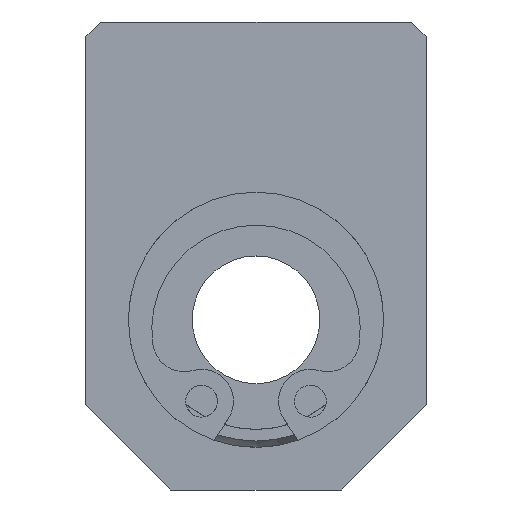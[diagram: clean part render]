
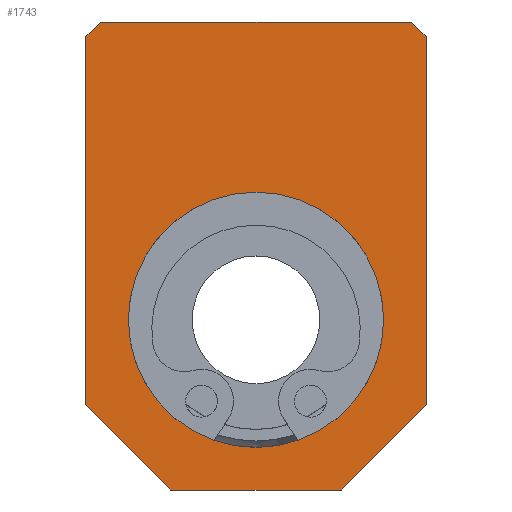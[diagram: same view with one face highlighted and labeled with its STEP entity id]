
A CAD part, left-side view. The second image highlights one B-rep face of the part: STEP entity #1743.
In plain terms, the highlighted planar face has unit normal (-1, 0, 0).
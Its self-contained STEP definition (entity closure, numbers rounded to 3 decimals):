
#1645=CARTESIAN_POINT('',(0.0,-7.3,14.0));
#1646=VERTEX_POINT('',#1645);
#1653=CARTESIAN_POINT('',(0.0,-8.,13.3));
#1654=VERTEX_POINT('',#1653);
#1655=CARTESIAN_POINT('',(0.0,-7.3,14.0));
#1656=DIRECTION('',(0.0,-0.707,-0.707));
#1657=VECTOR('',#1656,0.99);
#1658=LINE('',#1655,#1657);
#1659=EDGE_CURVE('',#1646,#1654,#1658,.T.);
#1670=CARTESIAN_POINT('',(0.0,0.,3.));
#1671=DIRECTION('',(1.0,0.0,0.0));
#1672=DIRECTION('',(0.0,0.0,-1.0));
#1673=AXIS2_PLACEMENT_3D('',#1670,#1671,#1672);
#1674=PLANE('',#1673);
#1675=ORIENTED_EDGE('',*,*,#1659,.F.);
#1676=CARTESIAN_POINT('',(0.0,7.3,14.0));
#1677=VERTEX_POINT('',#1676);
#1678=CARTESIAN_POINT('',(0.0,-7.3,14.0));
#1679=DIRECTION('',(0.0,1.0,0.0));
#1680=VECTOR('',#1679,14.6);
#1681=LINE('',#1678,#1680);
#1682=EDGE_CURVE('',#1646,#1677,#1681,.T.);
#1683=ORIENTED_EDGE('',*,*,#1682,.T.);
#1684=CARTESIAN_POINT('',(0.0,8.,13.3));
#1685=VERTEX_POINT('',#1684);
#1686=CARTESIAN_POINT('',(0.0,8.,13.3));
#1687=DIRECTION('',(0.0,-0.707,0.707));
#1688=VECTOR('',#1687,0.99);
#1689=LINE('',#1686,#1688);
#1690=EDGE_CURVE('',#1685,#1677,#1689,.T.);
#1691=ORIENTED_EDGE('',*,*,#1690,.F.);
#1692=CARTESIAN_POINT('',(0.0,8.,-4.));
#1693=VERTEX_POINT('',#1692);
#1694=CARTESIAN_POINT('',(0.0,8.,13.3));
#1695=DIRECTION('',(0.0,0.0,-1.0));
#1696=VECTOR('',#1695,17.3);
#1697=LINE('',#1694,#1696);
#1698=EDGE_CURVE('',#1685,#1693,#1697,.T.);
#1699=ORIENTED_EDGE('',*,*,#1698,.T.);
#1700=CARTESIAN_POINT('',(0.0,4.,-8.));
#1701=VERTEX_POINT('',#1700);
#1702=CARTESIAN_POINT('',(0.0,4.,-8.));
#1703=DIRECTION('',(0.0,0.707,0.707));
#1704=VECTOR('',#1703,5.657);
#1705=LINE('',#1702,#1704);
#1706=EDGE_CURVE('',#1701,#1693,#1705,.T.);
#1707=ORIENTED_EDGE('',*,*,#1706,.F.);
#1708=CARTESIAN_POINT('',(0.0,-4.,-8.));
#1709=VERTEX_POINT('',#1708);
#1710=CARTESIAN_POINT('',(0.0,4.,-8.));
#1711=DIRECTION('',(0.0,-1.0,0.0));
#1712=VECTOR('',#1711,8.);
#1713=LINE('',#1710,#1712);
#1714=EDGE_CURVE('',#1701,#1709,#1713,.T.);
#1715=ORIENTED_EDGE('',*,*,#1714,.T.);
#1716=CARTESIAN_POINT('',(0.0,-8.,-4.));
#1717=VERTEX_POINT('',#1716);
#1718=CARTESIAN_POINT('',(0.0,-8.,-4.));
#1719=DIRECTION('',(0.0,0.707,-0.707));
#1720=VECTOR('',#1719,5.657);
#1721=LINE('',#1718,#1720);
#1722=EDGE_CURVE('',#1717,#1709,#1721,.T.);
#1723=ORIENTED_EDGE('',*,*,#1722,.F.);
#1724=CARTESIAN_POINT('',(0.0,-8.,-4.));
#1725=DIRECTION('',(0.0,0.0,1.0));
#1726=VECTOR('',#1725,17.3);
#1727=LINE('',#1724,#1726);
#1728=EDGE_CURVE('',#1717,#1654,#1727,.T.);
#1729=ORIENTED_EDGE('',*,*,#1728,.T.);
#1730=EDGE_LOOP('',(#1675,#1683,#1691,#1699,#1707,#1715,#1723,#1729));
#1731=FACE_OUTER_BOUND('',#1730,.T.);
#1732=CARTESIAN_POINT('',(0.0,6.,0.));
#1733=VERTEX_POINT('',#1732);
#1734=CARTESIAN_POINT('',(0.0,0.0,0.0));
#1735=DIRECTION('',(1.0,0.0,0.0));
#1736=DIRECTION('',(0.0,-1.0,0.0));
#1737=AXIS2_PLACEMENT_3D('',#1734,#1735,#1736);
#1738=CIRCLE('',#1737,6.);
#1739=EDGE_CURVE('',#1733,#1733,#1738,.T.);
#1740=ORIENTED_EDGE('',*,*,#1739,.T.);
#1741=EDGE_LOOP('',(#1740));
#1742=FACE_BOUND('',#1741,.T.);
#1743=ADVANCED_FACE('',(#1731,#1742),#1674,.F.);
